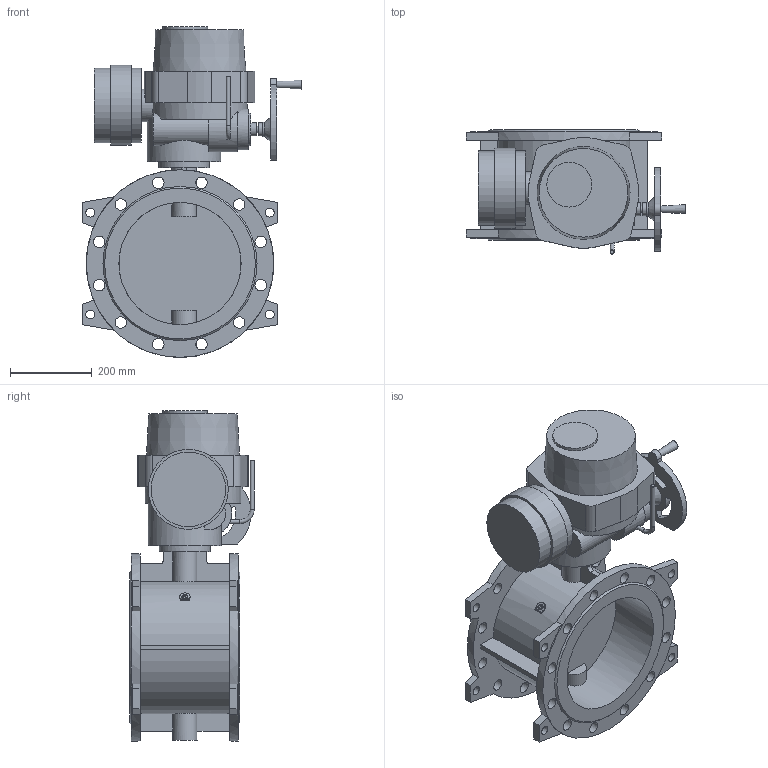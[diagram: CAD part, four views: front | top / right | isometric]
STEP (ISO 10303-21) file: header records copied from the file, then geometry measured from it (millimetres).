
FILE_DESCRIPTION(('STEP AP203'), '1');
FILE_NAME('Çàòâîð 023F.Z DN300 PN16 + ýëåêòðîïðèâîä QT.A120', '', ('UNSPECIFIED'), ('UNSPECIFIED'), 'ASCON STEP Converter 1.6', 'ASCON Math Kernel', '');
FILE_SCHEMA(('CONFIG_CONTROL_DESIGN'));
Length unit declared in the file: millimetre
Bounding box: 539 x 305 x 811 mm (x, y, z)
Volume: 28410027.5 mm3; surface area: 1768965 mm2
Topology: 1 solids, 1 shells, 240 faces, 605 edges, 399 vertices
Faces by surface type: plane 133, cylinder 101, cone 5, torus 1
Full cylindrical faces by diameter (mm): 10 x6, 12 x4, 14 x4, 16 x1, 22 x8, 28 x24, 32 x2, 35 x1, 60 x1, 80 x2, 100 x1, 110 x1, 125 x1, 180 x1, 183 x2, 196 x1, 300 x2, 460 x2
Entity records: 10642 total; most frequent: CARTESIAN_POINT 2862, DIRECTION 1233, ORIENTED_EDGE 1070, EDGE_CURVE 535, AXIS2_PLACEMENT_3D 485, EDGE_LOOP 412, VERTEX_POINT 399, FACE_BOUND 284
